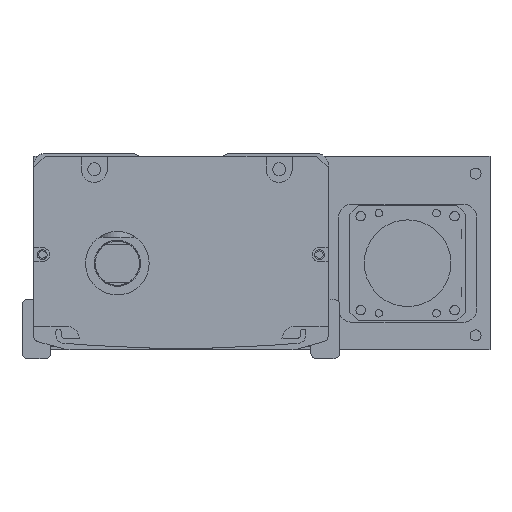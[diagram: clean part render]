
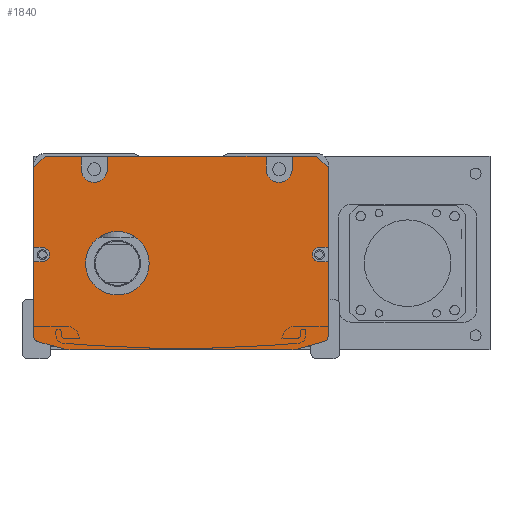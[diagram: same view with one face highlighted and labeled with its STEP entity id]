
A CAD part, front view. The second image highlights one B-rep face of the part: STEP entity #1840.
In plain terms, the highlighted planar face has unit normal (0, -1, 0).
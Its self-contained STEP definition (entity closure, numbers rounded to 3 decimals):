
#1840=ADVANCED_FACE('',(#4408,#4409),#2389,.F.);
#2389=PLANE('',#13989);
#2926=LINE('',#26900,#3723);
#2930=LINE('',#26909,#3727);
#2938=LINE('',#26936,#3735);
#2942=LINE('',#26945,#3739);
#2949=LINE('',#26961,#3746);
#2951=LINE('',#26966,#3748);
#2966=LINE('',#27009,#3763);
#2968=LINE('',#27017,#3765);
#2971=LINE('',#27021,#3768);
#2992=LINE('',#27089,#3789);
#2996=LINE('',#27098,#3793);
#3000=LINE('',#27107,#3797);
#3004=LINE('',#27116,#3801);
#3008=LINE('',#27132,#3805);
#3012=LINE('',#27138,#3809);
#3013=LINE('',#27139,#3810);
#3015=LINE('',#27155,#3812);
#3016=LINE('',#27156,#3813);
#3017=LINE('',#27157,#3814);
#3018=LINE('',#27158,#3815);
#3723=VECTOR('',#16511,1.);
#3727=VECTOR('',#16517,1.);
#3735=VECTOR('',#16539,1.);
#3739=VECTOR('',#16545,1.);
#3746=VECTOR('',#16554,1.);
#3748=VECTOR('',#16558,1.);
#3763=VECTOR('',#16597,1.);
#3765=VECTOR('',#16607,1.);
#3768=VECTOR('',#16612,1.);
#3789=VECTOR('',#16687,1.);
#3793=VECTOR('',#16693,1.);
#3797=VECTOR('',#16699,1.);
#3801=VECTOR('',#16705,1.);
#3805=VECTOR('',#16723,1.);
#3809=VECTOR('',#16727,1.);
#3810=VECTOR('',#16728,1.);
#3812=VECTOR('',#16752,1.);
#3813=VECTOR('',#16753,1.);
#3814=VECTOR('',#16754,1.);
#3815=VECTOR('',#16755,1.);
#4408=FACE_BOUND('',#5302,.T.);
#4409=FACE_BOUND('',#5303,.T.);
#5302=EDGE_LOOP('',(#7783,#7784,#7785,#7786,#7787,#7788,#7789,#7790,#7791,
#7792,#7793,#7794,#7795,#7796,#7797,#7798,#7799,#7800,#7801,#7802,#7803,
#7804,#7805,#7806,#7807,#7808,#7809,#7810));
#5303=EDGE_LOOP('',(#7811));
#7783=ORIENTED_EDGE('',*,*,#11792,.T.);
#7784=ORIENTED_EDGE('',*,*,#11669,.T.);
#7785=ORIENTED_EDGE('',*,*,#11779,.T.);
#7786=ORIENTED_EDGE('',*,*,#11696,.F.);
#7787=ORIENTED_EDGE('',*,*,#11733,.T.);
#7788=ORIENTED_EDGE('',*,*,#11698,.F.);
#7789=ORIENTED_EDGE('',*,*,#11784,.T.);
#7790=ORIENTED_EDGE('',*,*,#11685,.F.);
#7791=ORIENTED_EDGE('',*,*,#11730,.T.);
#7792=ORIENTED_EDGE('',*,*,#11689,.F.);
#7793=ORIENTED_EDGE('',*,*,#11783,.T.);
#7794=ORIENTED_EDGE('',*,*,#11673,.T.);
#7795=ORIENTED_EDGE('',*,*,#11793,.T.);
#7796=ORIENTED_EDGE('',*,*,#11763,.T.);
#7797=ORIENTED_EDGE('',*,*,#11791,.T.);
#7798=ORIENTED_EDGE('',*,*,#11759,.T.);
#7799=ORIENTED_EDGE('',*,*,#11794,.T.);
#7800=ORIENTED_EDGE('',*,*,#11716,.T.);
#7801=ORIENTED_EDGE('',*,*,#11719,.T.);
#7802=ORIENTED_EDGE('',*,*,#11722,.T.);
#7803=ORIENTED_EDGE('',*,*,#11723,.T.);
#7804=ORIENTED_EDGE('',*,*,#11679,.T.);
#7805=ORIENTED_EDGE('',*,*,#11726,.T.);
#7806=ORIENTED_EDGE('',*,*,#11681,.T.);
#7807=ORIENTED_EDGE('',*,*,#11795,.T.);
#7808=ORIENTED_EDGE('',*,*,#11771,.T.);
#7809=ORIENTED_EDGE('',*,*,#11790,.T.);
#7810=ORIENTED_EDGE('',*,*,#11767,.T.);
#7811=ORIENTED_EDGE('',*,*,#11735,.T.);
#10121=VERTEX_POINT('',#26901);
#10122=VERTEX_POINT('',#26902);
#10125=VERTEX_POINT('',#26910);
#10126=VERTEX_POINT('',#26911);
#10131=VERTEX_POINT('',#26922);
#10132=VERTEX_POINT('',#26924);
#10133=VERTEX_POINT('',#26928);
#10134=VERTEX_POINT('',#26929);
#10137=VERTEX_POINT('',#26937);
#10138=VERTEX_POINT('',#26938);
#10141=VERTEX_POINT('',#26946);
#10142=VERTEX_POINT('',#26947);
#10146=VERTEX_POINT('',#26956);
#10148=VERTEX_POINT('',#26960);
#10149=VERTEX_POINT('',#26964);
#10151=VERTEX_POINT('',#26967);
#10161=VERTEX_POINT('',#26997);
#10164=VERTEX_POINT('',#27002);
#10166=VERTEX_POINT('',#27008);
#10168=VERTEX_POINT('',#27014);
#10171=VERTEX_POINT('',#27040);
#10187=VERTEX_POINT('',#27087);
#10189=VERTEX_POINT('',#27090);
#10192=VERTEX_POINT('',#27097);
#10193=VERTEX_POINT('',#27099);
#10195=VERTEX_POINT('',#27105);
#10197=VERTEX_POINT('',#27108);
#10200=VERTEX_POINT('',#27115);
#10201=VERTEX_POINT('',#27117);
#11669=EDGE_CURVE('',#10121,#10122,#2926,.T.);
#11673=EDGE_CURVE('',#10125,#10126,#2930,.T.);
#11679=EDGE_CURVE('',#10132,#10131,#12852,.T.);
#11681=EDGE_CURVE('',#10133,#10134,#12853,.T.);
#11685=EDGE_CURVE('',#10137,#10138,#2938,.T.);
#11689=EDGE_CURVE('',#10141,#10142,#2942,.T.);
#11696=EDGE_CURVE('',#10148,#10146,#2949,.T.);
#11698=EDGE_CURVE('',#10149,#10151,#2951,.T.);
#11716=EDGE_CURVE('',#10161,#10164,#12860,.T.);
#11719=EDGE_CURVE('',#10164,#10166,#2966,.T.);
#11722=EDGE_CURVE('',#10166,#10168,#12862,.T.);
#11723=EDGE_CURVE('',#10168,#10132,#2968,.T.);
#11726=EDGE_CURVE('',#10131,#10133,#2971,.T.);
#11730=EDGE_CURVE('',#10137,#10142,#12865,.T.);
#11733=EDGE_CURVE('',#10148,#10151,#12868,.T.);
#11735=EDGE_CURVE('',#10171,#10171,#12869,.T.);
#11759=EDGE_CURVE('',#10189,#10187,#2992,.T.);
#11763=EDGE_CURVE('',#10193,#10192,#2996,.T.);
#11767=EDGE_CURVE('',#10197,#10195,#3000,.T.);
#11771=EDGE_CURVE('',#10201,#10200,#3004,.T.);
#11779=EDGE_CURVE('',#10122,#10146,#3008,.T.);
#11783=EDGE_CURVE('',#10141,#10125,#3012,.T.);
#11784=EDGE_CURVE('',#10149,#10138,#3013,.T.);
#11790=EDGE_CURVE('',#10200,#10197,#12883,.T.);
#11791=EDGE_CURVE('',#10192,#10189,#12884,.T.);
#11792=EDGE_CURVE('',#10195,#10121,#3015,.T.);
#11793=EDGE_CURVE('',#10126,#10193,#3016,.T.);
#11794=EDGE_CURVE('',#10187,#10161,#3017,.T.);
#11795=EDGE_CURVE('',#10134,#10201,#3018,.T.);
#12852=CIRCLE('',#13916,10.);
#12853=CIRCLE('',#13918,2.);
#12860=CIRCLE('',#13934,2.);
#12862=CIRCLE('',#13938,10.);
#12865=CIRCLE('',#13946,4.5);
#12868=CIRCLE('',#13951,4.5);
#12869=CIRCLE('',#13954,11.);
#12883=CIRCLE('',#13985,2.5);
#12884=CIRCLE('',#13987,2.5);
#13916=AXIS2_PLACEMENT_3D('',#26923,#16526,#16527);
#13918=AXIS2_PLACEMENT_3D('',#26927,#16531,#16532);
#13934=AXIS2_PLACEMENT_3D('',#27003,#16591,#16592);
#13938=AXIS2_PLACEMENT_3D('',#27015,#16603,#16604);
#13946=AXIS2_PLACEMENT_3D('',#27029,#16624,#16625);
#13951=AXIS2_PLACEMENT_3D('',#27035,#16634,#16635);
#13954=AXIS2_PLACEMENT_3D('',#27039,#16641,#16642);
#13985=AXIS2_PLACEMENT_3D('',#27151,#16744,#16745);
#13987=AXIS2_PLACEMENT_3D('',#27153,#16748,#16749);
#13989=AXIS2_PLACEMENT_3D('',#27159,#16756,#16757);
#16511=DIRECTION('',(-0.707,0.,0.707));
#16517=DIRECTION('',(-0.707,0.,-0.707));
#16526=DIRECTION('',(0.,-1.,0.));
#16527=DIRECTION('',(0.,0.,-1.));
#16531=DIRECTION('',(0.,-1.,0.));
#16532=DIRECTION('',(0.,0.,-1.));
#16539=DIRECTION('',(0.,0.,1.));
#16545=DIRECTION('',(0.,0.,-1.));
#16554=DIRECTION('',(0.,0.,1.));
#16558=DIRECTION('',(0.,0.,-1.));
#16591=DIRECTION('',(0.,-1.,0.));
#16592=DIRECTION('',(0.,0.,1.));
#16597=DIRECTION('',(0.963,0.,-0.269));
#16603=DIRECTION('',(0.,-1.,0.));
#16604=DIRECTION('',(0.,0.,1.));
#16607=DIRECTION('',(1.,0.,0.));
#16612=DIRECTION('',(0.963,0.,0.269));
#16624=DIRECTION('',(0.,1.,0.));
#16625=DIRECTION('',(0.,0.,1.));
#16634=DIRECTION('',(0.,1.,0.));
#16635=DIRECTION('',(0.,0.,1.));
#16641=DIRECTION('',(0.,1.,0.));
#16642=DIRECTION('',(0.,0.,1.));
#16687=DIRECTION('',(-1.,0.,0.));
#16693=DIRECTION('',(1.,0.,0.));
#16699=DIRECTION('',(1.,0.,0.));
#16705=DIRECTION('',(-1.,0.,0.));
#16723=DIRECTION('',(-1.,0.,0.));
#16727=DIRECTION('',(-1.,0.,0.));
#16728=DIRECTION('',(-1.,0.,0.));
#16744=DIRECTION('',(0.,1.,0.));
#16745=DIRECTION('',(0.,0.,1.));
#16748=DIRECTION('',(0.,1.,0.));
#16749=DIRECTION('',(0.,0.,1.));
#16752=DIRECTION('',(0.,0.,1.));
#16753=DIRECTION('',(0.,0.,-1.));
#16754=DIRECTION('',(0.,0.,-1.));
#16755=DIRECTION('',(0.,0.,1.));
#16756=DIRECTION('',(0.,1.,0.));
#16757=DIRECTION('',(-1.,0.,0.));
#26900=CARTESIAN_POINT('',(43.808,-467.5,-1.));
#26901=CARTESIAN_POINT('',(47.808,-467.5,-5.));
#26902=CARTESIAN_POINT('',(43.808,-467.5,-1.));
#26909=CARTESIAN_POINT('',(-54.192,-467.5,-5.));
#26910=CARTESIAN_POINT('',(-50.192,-467.5,-1.));
#26911=CARTESIAN_POINT('',(-54.192,-467.5,-5.));
#26922=CARTESIAN_POINT('',(37.424,-467.5,-67.631));
#26923=CARTESIAN_POINT('',(34.733,-467.5,-58.));
#26924=CARTESIAN_POINT('',(34.733,-467.5,-68.));
#26927=CARTESIAN_POINT('',(45.808,-467.5,-63.212));
#26928=CARTESIAN_POINT('',(46.346,-467.5,-65.138));
#26929=CARTESIAN_POINT('',(47.808,-467.5,-63.212));
#26936=CARTESIAN_POINT('',(-28.692,-467.5,-3.5));
#26937=CARTESIAN_POINT('',(-28.692,-467.5,-5.5));
#26938=CARTESIAN_POINT('',(-28.692,-467.5,-1.));
#26945=CARTESIAN_POINT('',(-37.692,-467.5,-1.));
#26946=CARTESIAN_POINT('',(-37.692,-467.5,-1.));
#26947=CARTESIAN_POINT('',(-37.692,-467.5,-5.5));
#26956=CARTESIAN_POINT('',(35.308,-467.5,-1.));
#26960=CARTESIAN_POINT('',(35.308,-467.5,-5.5));
#26961=CARTESIAN_POINT('',(35.308,-467.5,-1.));
#26964=CARTESIAN_POINT('',(26.308,-467.5,-1.));
#26966=CARTESIAN_POINT('',(26.308,-467.5,-1.));
#26967=CARTESIAN_POINT('',(26.308,-467.5,-5.5));
#26997=CARTESIAN_POINT('',(-54.192,-467.5,-63.212));
#27002=CARTESIAN_POINT('',(-52.731,-467.5,-65.138));
#27003=CARTESIAN_POINT('',(-52.192,-467.5,-63.212));
#27008=CARTESIAN_POINT('',(-43.809,-467.5,-67.631));
#27009=CARTESIAN_POINT('',(-55.807,-467.5,-64.279));
#27014=CARTESIAN_POINT('',(-41.118,-467.5,-68.));
#27015=CARTESIAN_POINT('',(-41.118,-467.5,-58.));
#27017=CARTESIAN_POINT('',(-54.692,-467.5,-68.));
#27021=CARTESIAN_POINT('',(49.422,-467.5,-64.279));
#27029=CARTESIAN_POINT('',(-33.192,-467.5,-5.5));
#27035=CARTESIAN_POINT('',(30.808,-467.5,-5.5));
#27039=CARTESIAN_POINT('',(-25.192,-467.5,-38.));
#27040=CARTESIAN_POINT('',(-25.192,-467.5,-27.));
#27087=CARTESIAN_POINT('',(-54.192,-467.5,-37.5));
#27089=CARTESIAN_POINT('',(-3.192,-467.5,-37.5));
#27090=CARTESIAN_POINT('',(-51.192,-467.5,-37.5));
#27097=CARTESIAN_POINT('',(-51.192,-467.5,-32.5));
#27098=CARTESIAN_POINT('',(-3.192,-467.5,-32.5));
#27099=CARTESIAN_POINT('',(-54.192,-467.5,-32.5));
#27105=CARTESIAN_POINT('',(47.808,-467.5,-32.5));
#27107=CARTESIAN_POINT('',(-3.192,-467.5,-32.5));
#27108=CARTESIAN_POINT('',(44.808,-467.5,-32.5));
#27115=CARTESIAN_POINT('',(44.808,-467.5,-37.5));
#27116=CARTESIAN_POINT('',(-3.192,-467.5,-37.5));
#27117=CARTESIAN_POINT('',(47.808,-467.5,-37.5));
#27132=CARTESIAN_POINT('',(-3.192,-467.5,-1.));
#27138=CARTESIAN_POINT('',(-54.192,-467.5,-1.));
#27139=CARTESIAN_POINT('',(-54.192,-467.5,-1.));
#27151=CARTESIAN_POINT('',(44.808,-467.5,-35.));
#27153=CARTESIAN_POINT('',(-51.192,-467.5,-35.));
#27155=CARTESIAN_POINT('',(47.808,-467.5,-1.));
#27156=CARTESIAN_POINT('',(-54.192,-467.5,-62.));
#27157=CARTESIAN_POINT('',(-54.192,-467.5,-62.));
#27158=CARTESIAN_POINT('',(47.808,-467.5,-1.));
#27159=CARTESIAN_POINT('',(-3.192,-467.5,-1.));
